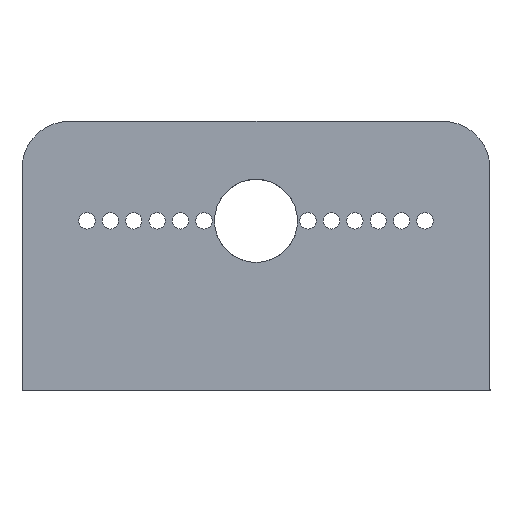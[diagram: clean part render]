
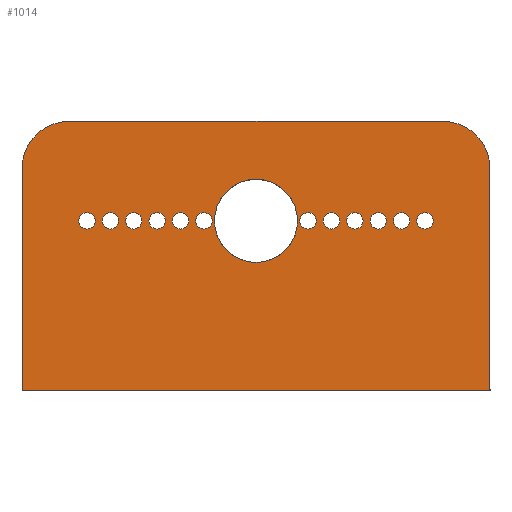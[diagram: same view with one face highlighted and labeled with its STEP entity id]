
A CAD part, front view. The second image highlights one B-rep face of the part: STEP entity #1014.
In plain terms, the highlighted planar face has unit normal (0, -1, 0).
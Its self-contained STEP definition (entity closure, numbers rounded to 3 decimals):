
#28=FACE_BOUND('',#169,.T.);
#29=FACE_BOUND('',#170,.T.);
#30=FACE_BOUND('',#171,.T.);
#31=FACE_BOUND('',#172,.T.);
#32=FACE_BOUND('',#173,.T.);
#33=FACE_BOUND('',#174,.T.);
#34=FACE_BOUND('',#175,.T.);
#35=FACE_BOUND('',#176,.T.);
#36=FACE_BOUND('',#177,.T.);
#37=FACE_BOUND('',#178,.T.);
#38=FACE_BOUND('',#179,.T.);
#39=FACE_BOUND('',#180,.T.);
#40=FACE_BOUND('',#181,.T.);
#64=PLANE('',#1117);
#103=FACE_OUTER_BOUND('',#168,.T.);
#168=EDGE_LOOP('',(#806,#807,#808,#809,#810,#811));
#169=EDGE_LOOP('',(#812));
#170=EDGE_LOOP('',(#813));
#171=EDGE_LOOP('',(#814));
#172=EDGE_LOOP('',(#815));
#173=EDGE_LOOP('',(#816));
#174=EDGE_LOOP('',(#817));
#175=EDGE_LOOP('',(#818));
#176=EDGE_LOOP('',(#819));
#177=EDGE_LOOP('',(#820));
#178=EDGE_LOOP('',(#821));
#179=EDGE_LOOP('',(#822));
#180=EDGE_LOOP('',(#823));
#181=EDGE_LOOP('',(#824));
#259=LINE('',#1627,#338);
#261=LINE('',#1631,#340);
#262=LINE('',#1633,#341);
#263=LINE('',#1635,#342);
#338=VECTOR('',#1329,10.);
#340=VECTOR('',#1333,10.);
#341=VECTOR('',#1334,10.);
#342=VECTOR('',#1335,10.);
#383=CIRCLE('',#1058,0.7);
#385=CIRCLE('',#1061,0.7);
#387=CIRCLE('',#1064,0.7);
#389=CIRCLE('',#1067,0.7);
#391=CIRCLE('',#1070,0.7);
#393=CIRCLE('',#1073,0.7);
#395=CIRCLE('',#1076,0.7);
#397=CIRCLE('',#1079,0.7);
#399=CIRCLE('',#1082,0.7);
#401=CIRCLE('',#1085,0.7);
#403=CIRCLE('',#1088,0.7);
#405=CIRCLE('',#1091,0.7);
#407=CIRCLE('',#1094,3.55);
#418=CIRCLE('',#1115,4.);
#419=CIRCLE('',#1118,4.);
#445=VERTEX_POINT('',#1483);
#447=VERTEX_POINT('',#1489);
#449=VERTEX_POINT('',#1495);
#451=VERTEX_POINT('',#1501);
#453=VERTEX_POINT('',#1507);
#455=VERTEX_POINT('',#1513);
#457=VERTEX_POINT('',#1519);
#459=VERTEX_POINT('',#1525);
#461=VERTEX_POINT('',#1531);
#463=VERTEX_POINT('',#1537);
#465=VERTEX_POINT('',#1543);
#467=VERTEX_POINT('',#1549);
#471=VERTEX_POINT('',#1558);
#492=VERTEX_POINT('',#1620);
#493=VERTEX_POINT('',#1621);
#494=VERTEX_POINT('',#1626);
#495=VERTEX_POINT('',#1630);
#496=VERTEX_POINT('',#1632);
#497=VERTEX_POINT('',#1634);
#540=EDGE_CURVE('',#445,#445,#383,.T.);
#543=EDGE_CURVE('',#447,#447,#385,.T.);
#546=EDGE_CURVE('',#449,#449,#387,.T.);
#549=EDGE_CURVE('',#451,#451,#389,.T.);
#552=EDGE_CURVE('',#453,#453,#391,.T.);
#555=EDGE_CURVE('',#455,#455,#393,.T.);
#558=EDGE_CURVE('',#457,#457,#395,.T.);
#561=EDGE_CURVE('',#459,#459,#397,.T.);
#564=EDGE_CURVE('',#461,#461,#399,.T.);
#567=EDGE_CURVE('',#463,#463,#401,.T.);
#570=EDGE_CURVE('',#465,#465,#403,.T.);
#573=EDGE_CURVE('',#467,#467,#405,.T.);
#577=EDGE_CURVE('',#471,#471,#407,.T.);
#607=EDGE_CURVE('',#492,#493,#418,.T.);
#610=EDGE_CURVE('',#493,#494,#259,.T.);
#612=EDGE_CURVE('',#495,#492,#261,.T.);
#613=EDGE_CURVE('',#496,#495,#262,.T.);
#614=EDGE_CURVE('',#496,#497,#263,.T.);
#615=EDGE_CURVE('',#494,#497,#419,.T.);
#806=ORIENTED_EDGE('',*,*,#607,.F.);
#807=ORIENTED_EDGE('',*,*,#612,.F.);
#808=ORIENTED_EDGE('',*,*,#613,.F.);
#809=ORIENTED_EDGE('',*,*,#614,.T.);
#810=ORIENTED_EDGE('',*,*,#615,.F.);
#811=ORIENTED_EDGE('',*,*,#610,.F.);
#812=ORIENTED_EDGE('',*,*,#540,.T.);
#813=ORIENTED_EDGE('',*,*,#543,.T.);
#814=ORIENTED_EDGE('',*,*,#546,.T.);
#815=ORIENTED_EDGE('',*,*,#549,.T.);
#816=ORIENTED_EDGE('',*,*,#552,.T.);
#817=ORIENTED_EDGE('',*,*,#555,.T.);
#818=ORIENTED_EDGE('',*,*,#558,.T.);
#819=ORIENTED_EDGE('',*,*,#561,.T.);
#820=ORIENTED_EDGE('',*,*,#564,.T.);
#821=ORIENTED_EDGE('',*,*,#567,.T.);
#822=ORIENTED_EDGE('',*,*,#570,.T.);
#823=ORIENTED_EDGE('',*,*,#573,.T.);
#824=ORIENTED_EDGE('',*,*,#577,.T.);
#1014=ADVANCED_FACE('',(#103,#28,#29,#30,#31,#32,#33,#34,#35,#36,#37,#38,
#39,#40),#64,.T.);
#1058=AXIS2_PLACEMENT_3D('',#1485,#1177,#1178);
#1061=AXIS2_PLACEMENT_3D('',#1491,#1184,#1185);
#1064=AXIS2_PLACEMENT_3D('',#1497,#1191,#1192);
#1067=AXIS2_PLACEMENT_3D('',#1503,#1198,#1199);
#1070=AXIS2_PLACEMENT_3D('',#1509,#1205,#1206);
#1073=AXIS2_PLACEMENT_3D('',#1515,#1212,#1213);
#1076=AXIS2_PLACEMENT_3D('',#1521,#1219,#1220);
#1079=AXIS2_PLACEMENT_3D('',#1527,#1226,#1227);
#1082=AXIS2_PLACEMENT_3D('',#1533,#1233,#1234);
#1085=AXIS2_PLACEMENT_3D('',#1539,#1240,#1241);
#1088=AXIS2_PLACEMENT_3D('',#1545,#1247,#1248);
#1091=AXIS2_PLACEMENT_3D('',#1551,#1254,#1255);
#1094=AXIS2_PLACEMENT_3D('',#1560,#1262,#1263);
#1115=AXIS2_PLACEMENT_3D('',#1622,#1323,#1324);
#1117=AXIS2_PLACEMENT_3D('',#1629,#1331,#1332);
#1118=AXIS2_PLACEMENT_3D('',#1636,#1336,#1337);
#1177=DIRECTION('center_axis',(0.,1.,0.));
#1178=DIRECTION('ref_axis',(1.,0.,0.));
#1184=DIRECTION('center_axis',(0.,1.,0.));
#1185=DIRECTION('ref_axis',(1.,0.,0.));
#1191=DIRECTION('center_axis',(0.,1.,0.));
#1192=DIRECTION('ref_axis',(1.,0.,0.));
#1198=DIRECTION('center_axis',(0.,1.,0.));
#1199=DIRECTION('ref_axis',(1.,0.,0.));
#1205=DIRECTION('center_axis',(0.,1.,0.));
#1206=DIRECTION('ref_axis',(1.,0.,0.));
#1212=DIRECTION('center_axis',(0.,1.,0.));
#1213=DIRECTION('ref_axis',(1.,0.,0.));
#1219=DIRECTION('center_axis',(0.,1.,0.));
#1220=DIRECTION('ref_axis',(-1.,0.,0.));
#1226=DIRECTION('center_axis',(0.,1.,0.));
#1227=DIRECTION('ref_axis',(-1.,0.,0.));
#1233=DIRECTION('center_axis',(0.,1.,0.));
#1234=DIRECTION('ref_axis',(-1.,0.,0.));
#1240=DIRECTION('center_axis',(0.,1.,0.));
#1241=DIRECTION('ref_axis',(-1.,0.,0.));
#1247=DIRECTION('center_axis',(0.,1.,0.));
#1248=DIRECTION('ref_axis',(-1.,0.,0.));
#1254=DIRECTION('center_axis',(0.,1.,0.));
#1255=DIRECTION('ref_axis',(-1.,0.,0.));
#1262=DIRECTION('center_axis',(0.,1.,0.));
#1263=DIRECTION('ref_axis',(-1.,0.,0.));
#1323=DIRECTION('center_axis',(0.,1.,0.));
#1324=DIRECTION('ref_axis',(-0.707,0.,0.707));
#1329=DIRECTION('',(1.,0.,0.));
#1331=DIRECTION('center_axis',(0.,-1.,0.));
#1332=DIRECTION('ref_axis',(1.,0.,0.));
#1333=DIRECTION('',(0.,0.,1.));
#1334=DIRECTION('',(-1.,0.,0.));
#1335=DIRECTION('',(0.,0.,1.));
#1336=DIRECTION('center_axis',(0.,1.,0.));
#1337=DIRECTION('ref_axis',(0.707,0.,0.707));
#1483=CARTESIAN_POINT('',(-15.15,-17.5,14.5));
#1485=CARTESIAN_POINT('Origin',(-14.45,-17.5,14.5));
#1489=CARTESIAN_POINT('',(-11.15,-17.5,14.5));
#1491=CARTESIAN_POINT('Origin',(-10.45,-17.5,14.5));
#1495=CARTESIAN_POINT('',(-7.15,-17.5,14.5));
#1497=CARTESIAN_POINT('Origin',(-6.45,-17.5,14.5));
#1501=CARTESIAN_POINT('',(-5.15,-17.5,14.5));
#1503=CARTESIAN_POINT('Origin',(-4.45,-17.5,14.5));
#1507=CARTESIAN_POINT('',(-9.15,-17.5,14.5));
#1509=CARTESIAN_POINT('Origin',(-8.45,-17.5,14.5));
#1513=CARTESIAN_POINT('',(-13.15,-17.5,14.5));
#1515=CARTESIAN_POINT('Origin',(-12.45,-17.5,14.5));
#1519=CARTESIAN_POINT('',(11.15,-17.5,14.5));
#1521=CARTESIAN_POINT('Origin',(10.45,-17.5,14.5));
#1525=CARTESIAN_POINT('',(5.15,-17.5,14.5));
#1527=CARTESIAN_POINT('Origin',(4.45,-17.5,14.5));
#1531=CARTESIAN_POINT('',(13.15,-17.5,14.5));
#1533=CARTESIAN_POINT('Origin',(12.45,-17.5,14.5));
#1537=CARTESIAN_POINT('',(9.15,-17.5,14.5));
#1539=CARTESIAN_POINT('Origin',(8.45,-17.5,14.5));
#1543=CARTESIAN_POINT('',(7.15,-17.5,14.5));
#1545=CARTESIAN_POINT('Origin',(6.45,-17.5,14.5));
#1549=CARTESIAN_POINT('',(15.15,-17.5,14.5));
#1551=CARTESIAN_POINT('Origin',(14.45,-17.5,14.5));
#1558=CARTESIAN_POINT('',(3.55,-17.5,14.5));
#1560=CARTESIAN_POINT('Origin',(0.,-17.5,14.5));
#1620=CARTESIAN_POINT('',(-20.,-17.5,19.));
#1621=CARTESIAN_POINT('',(-16.,-17.5,23.));
#1622=CARTESIAN_POINT('Origin',(-16.,-17.5,19.));
#1626=CARTESIAN_POINT('',(16.,-17.5,23.));
#1627=CARTESIAN_POINT('',(20.,-17.5,23.));
#1629=CARTESIAN_POINT('Origin',(-20.,-17.5,0.));
#1630=CARTESIAN_POINT('',(-20.,-17.5,0.));
#1631=CARTESIAN_POINT('',(-20.,-17.5,0.));
#1632=CARTESIAN_POINT('',(20.,-17.5,0.));
#1633=CARTESIAN_POINT('',(20.,-17.5,0.));
#1634=CARTESIAN_POINT('',(20.,-17.5,19.));
#1635=CARTESIAN_POINT('',(20.,-17.5,0.));
#1636=CARTESIAN_POINT('Origin',(16.,-17.5,19.));
